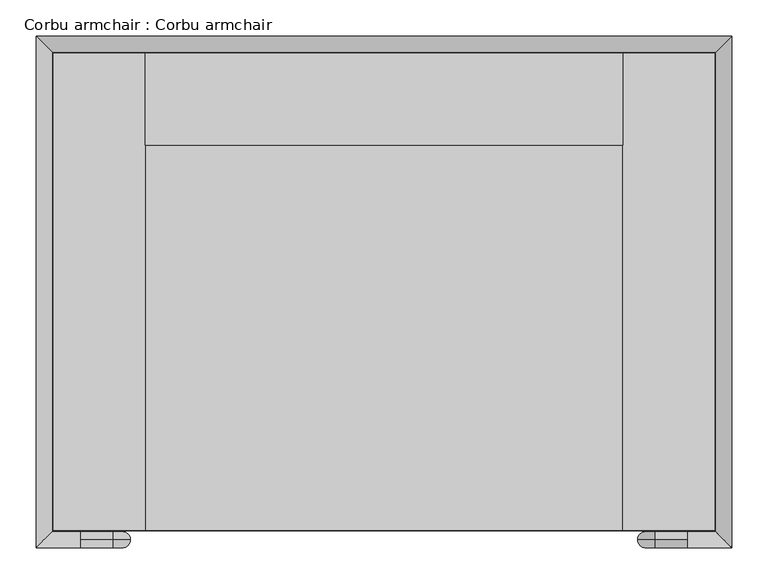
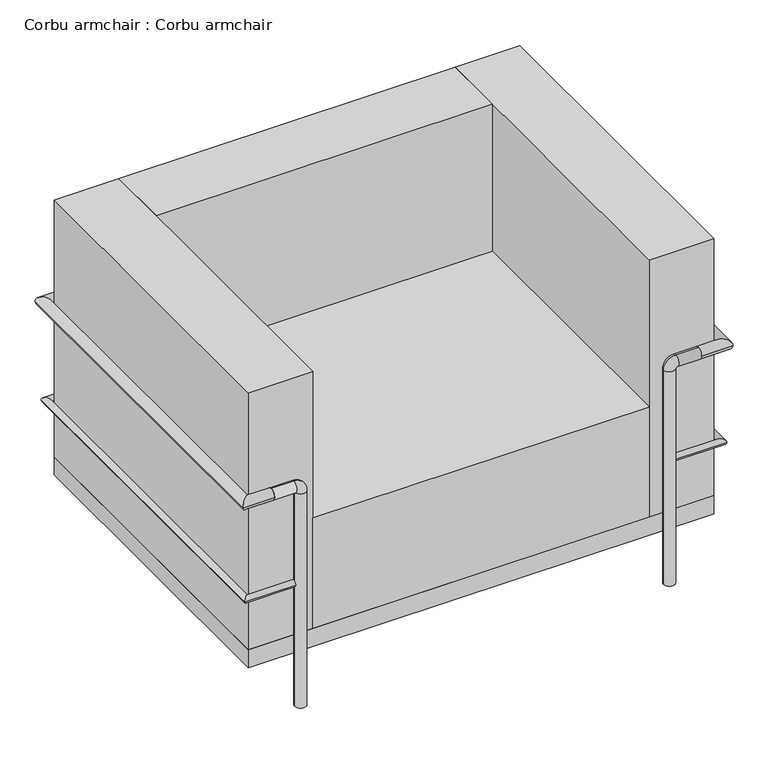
"""IFC4 building model written with IfcOpenShell, lengths in millimetres: furniture geometry, Corbu armchair : Corbu armchair."""

from ifc_helpers import new_model, si_unit, point, frame, frame_2d, origin, origin_with_axes, place, context, project, spatial, polyline, circle_curve, ellipse_curve, trimmed, segment, composite_curve, outline, extrude, source, transform, mapped, element, save
from ifc_brep_helpers import plane_surface, cylinder_surface, revolved_surface, advanced_brep


def corbu_armchair_corbu_armchair_71097553(model_context):
    return source(origin(), model_context, "Body", "SolidModel", [
        extrude(outline(composite_curve([segment(trimmed(circle_curve(frame_2d((211.4237705, 809.6770492)), 11.1125), [point((200.3112705, 809.6770492))], [point((222.5362705, 809.6770492))], False, "CARTESIAN"), True, "CONTINUOUS"), segment(trimmed(circle_curve(frame_2d((211.4237705, 809.6770492)), 11.1125), [point((222.5362705, 809.6770492))], [point((200.3112705, 809.6770492))], False, "CARTESIAN"), True, "CONTINUOUS")], self_intersect=False)), origin_with_axes(), (0.0, 0.0, 1.0), 457.2),
        extrude(outline(composite_curve([segment(trimmed(circle_curve(frame_2d((935.3237705, 809.6770492)), 11.1125), [point((946.4362705, 809.6770492))], [point((924.2112705, 809.6770492))], False, "CARTESIAN"), True, "CONTINUOUS"), segment(trimmed(circle_curve(frame_2d((935.3237705, 809.6770492)), 11.1125), [point((924.2112705, 809.6770492))], [point((946.4362705, 809.6770492))], False, "CARTESIAN"), True, "CONTINUOUS")], self_intersect=False)), origin_with_axes(), (0.0, 0.0, 1.0), 457.2),
        advanced_brep(
        [(946.4362705, 123.8770492, 0.0), (924.2112705, 123.8770492, 0.0), (946.4362705, 123.8770492, 444.5), (924.2112705, 123.8770492, 444.5), (948.0237705, 123.8770492, 468.3125), (948.0237705, 123.8770492, 446.0875), (992.4737705, 123.8770492, 446.0875), (992.4737705, 123.8770492, 468.3125)],
        [
            (0, 1, circle_curve(frame((935.3237705, 123.8770492, 0.0), z_axis=(0.0, 0.0, -1.0), x_axis=(-1.0, 0.0, 0.0)), 11.1125)),
            (1, 0, circle_curve(frame((935.3237705, 123.8770492, 0.0), z_axis=(0.0, 0.0, -1.0), x_axis=(-1.0, 0.0, 0.0)), 11.1125)),
            (0, 2),
            (2, 3, circle_curve(frame((935.3237705, 123.8770492, 444.5), z_axis=(0.0, 0.0, -1.0), x_axis=(-1.0, 0.0, 0.0)), 11.1125)),
            (3, 1),
            (3, 2, circle_curve(frame((935.3237705, 123.8770492, 444.5), z_axis=(0.0, 0.0, -1.0), x_axis=(-1.0, 0.0, 0.0)), 11.1125)),
            (4, 3, circle_curve(frame((948.0237705, 123.8770492, 444.5), z_axis=(0.0, -1.0, 0.0), x_axis=(-1.0, 0.0, 0.0)), 23.8125)),
            (2, 5, circle_curve(frame((948.0237705, 123.8770492, 444.5), z_axis=(0.0, 1.0, 0.0), x_axis=(-1.0, 0.0, 0.0)), 1.5875)),
            (5, 4, circle_curve(frame((948.0237705, 123.8770492, 457.2), z_axis=(-1.0, 0.0, 0.0), x_axis=(0.0, 0.0, 1.0)), 11.1125)),
            (4, 5, circle_curve(frame((948.0237705, 123.8770492, 457.2), z_axis=(-1.0, 0.0, 0.0), x_axis=(0.0, 0.0, 1.0)), 11.1125)),
            (6, 7, circle_curve(frame((992.4737705, 123.8770492, 457.2), z_axis=(1.0, 0.0, 0.0), x_axis=(0.0, 0.0, 1.0)), 11.1125)),
            (7, 6, circle_curve(frame((992.4737705, 123.8770492, 457.2), z_axis=(1.0, 0.0, 0.0), x_axis=(0.0, 0.0, 1.0)), 11.1125)),
            (5, 6),
            (7, 4),
        ],
        [
            plane_surface(frame((935.3237705, 112.7645492, 0.0), z_axis=(0.0, 0.0, -1.0), x_axis=(1.0, 0.0, 0.0))),
            cylinder_surface(frame((935.3237705, 123.8770492, 0.0), z_axis=(0.0, 0.0, -1.0), x_axis=(-1.0, 0.0, 0.0)), 11.1125),
            revolved_surface(trimmed(ellipse_curve(frame((935.3237705, 123.8770492, 444.5), z_axis=(0.0, 0.0, -1.0), x_axis=(-1.0, 0.0, 0.0)), 11.1125, 11.1125), [point((946.4362705, 123.8770492, 444.5))], [point((924.2112705, 123.8770492, 444.5))], True, "CARTESIAN"), (948.0237705, 123.8770492, 444.5), (0.0, 1.0, 0.0)),
            revolved_surface(trimmed(ellipse_curve(frame((935.3237705, 123.8770492, 444.5), z_axis=(0.0, 0.0, -1.0), x_axis=(-1.0, 0.0, 0.0)), 11.1125, 11.1125), [point((924.2112705, 123.8770492, 444.5))], [point((946.4362705, 123.8770492, 444.5))], True, "CARTESIAN"), (948.0237705, 123.8770492, 444.5), (0.0, 1.0, 0.0)),
            plane_surface(frame((992.4737705, 123.8770492, 446.0875), z_axis=(1.0, 0.0, 0.0), x_axis=(0.0, 1.0, 0.0))),
            cylinder_surface(frame((948.0237705, 123.8770492, 457.2), z_axis=(-1.0, 0.0, 0.0), x_axis=(0.0, 0.0, 1.0)), 11.1125),
        ],
        [
            (0, [[1, 2]]),
            (1, [[-1, 3, 4, 5]]),
            (1, [[-2, -5, 6, -3]]),
            (2, [[7, -4, 8, 9]]),
            (3, [[-8, -6, -7, 10]]),
            (4, [[11, 12]]),
            (5, [[-9, 13, -12, 14]]),
            (5, [[-10, -14, -11, -13]]),
        ],
    ),
        advanced_brep(
        [(222.5362705, 123.8770492, 0.0), (200.3112705, 123.8770492, 0.0), (222.5362705, 123.8770492, 444.5), (200.3112705, 123.8770492, 444.5), (198.7237705, 123.8770492, 446.0875), (198.7237705, 123.8770492, 468.3125), (154.2737705, 123.8770492, 468.3125), (154.2737705, 123.8770492, 446.0875)],
        [
            (0, 1, circle_curve(frame((211.4237705, 123.8770492, 0.0), z_axis=(0.0, 0.0, -1.0), x_axis=(-1.0, 0.0, 0.0)), 11.1125)),
            (1, 0, circle_curve(frame((211.4237705, 123.8770492, 0.0), z_axis=(0.0, 0.0, -1.0), x_axis=(-1.0, 0.0, 0.0)), 11.1125)),
            (0, 2),
            (2, 3, circle_curve(frame((211.4237705, 123.8770492, 444.5), z_axis=(0.0, 0.0, -1.0), x_axis=(-1.0, 0.0, 0.0)), 11.1125)),
            (3, 1),
            (3, 2, circle_curve(frame((211.4237705, 123.8770492, 444.5), z_axis=(0.0, 0.0, -1.0), x_axis=(-1.0, 0.0, 0.0)), 11.1125)),
            (4, 3, circle_curve(frame((198.7237705, 123.8770492, 444.5), z_axis=(0.0, 1.0, 0.0), x_axis=(1.0, 0.0, 0.0)), 1.5875)),
            (2, 5, circle_curve(frame((198.7237705, 123.8770492, 444.5), z_axis=(0.0, -1.0, 0.0), x_axis=(1.0, 0.0, 0.0)), 23.8125)),
            (5, 4, circle_curve(frame((198.7237705, 123.8770492, 457.2), z_axis=(1.0, 0.0, 0.0), x_axis=(0.0, 0.0, -1.0)), 11.1125)),
            (4, 5, circle_curve(frame((198.7237705, 123.8770492, 457.2), z_axis=(1.0, 0.0, 0.0), x_axis=(0.0, 0.0, -1.0)), 11.1125)),
            (6, 7, circle_curve(frame((154.2737705, 123.8770492, 457.2), z_axis=(-1.0, 0.0, 0.0), x_axis=(0.0, 0.0, -1.0)), 11.1125)),
            (7, 6, circle_curve(frame((154.2737705, 123.8770492, 457.2), z_axis=(-1.0, 0.0, 0.0), x_axis=(0.0, 0.0, -1.0)), 11.1125)),
            (5, 6),
            (7, 4),
        ],
        [
            plane_surface(frame((211.4237705, 112.7645492, 0.0), z_axis=(0.0, 0.0, -1.0), x_axis=(1.0, 0.0, 0.0))),
            cylinder_surface(frame((211.4237705, 123.8770492, 0.0), z_axis=(0.0, 0.0, -1.0), x_axis=(-1.0, 0.0, 0.0)), 11.1125),
            revolved_surface(trimmed(ellipse_curve(frame((211.4237705, 123.8770492, 444.5), z_axis=(0.0, 0.0, -1.0), x_axis=(-1.0, 0.0, 0.0)), 11.1125, 11.1125), [point((222.5362705, 123.8770492, 444.5))], [point((200.3112705, 123.8770492, 444.5))], True, "CARTESIAN"), (198.7237705, 123.8770492, 444.5), (0.0, -1.0, 0.0)),
            revolved_surface(trimmed(ellipse_curve(frame((211.4237705, 123.8770492, 444.5), z_axis=(0.0, 0.0, -1.0), x_axis=(-1.0, 0.0, 0.0)), 11.1125, 11.1125), [point((200.3112705, 123.8770492, 444.5))], [point((222.5362705, 123.8770492, 444.5))], True, "CARTESIAN"), (198.7237705, 123.8770492, 444.5), (0.0, -1.0, 0.0)),
            plane_surface(frame((154.2737705, 123.8770492, 446.0875), z_axis=(-1.0, 0.0, 0.0), x_axis=(0.0, -1.0, 0.0))),
            cylinder_surface(frame((198.7237705, 123.8770492, 457.2), z_axis=(1.0, 0.0, 0.0), x_axis=(0.0, 0.0, -1.0)), 11.1125),
        ],
        [
            (0, [[1, 2]]),
            (1, [[-1, 3, 4, 5]]),
            (1, [[-2, -5, 6, -3]]),
            (2, [[7, -4, 8, 9]]),
            (3, [[-8, -6, -7, 10]]),
            (4, [[11, 12]]),
            (5, [[-9, 13, -12, 14]]),
            (5, [[-10, -14, -11, -13]]),
        ],
    ),
        advanced_brep(
        [(201.8987705, 133.4020492, 254.0), (201.8987705, 120.7020492, 254.0), (112.9987705, 133.4020492, 254.0), (100.2987705, 120.7020492, 254.0), (112.9987705, 800.1520492, 254.0), (100.2987705, 812.8520492, 254.0), (1033.7487705, 800.1520492, 254.0), (1046.4487705, 812.8520492, 254.0), (1033.7487705, 133.4020492, 254.0), (1046.4487705, 120.7020492, 254.0), (944.8487705, 133.4020492, 254.0), (944.8487705, 120.7020492, 254.0)],
        [
            (0, 1, circle_curve(frame((201.8987705, 127.0520492, 254.0), z_axis=(1.0, 0.0, 0.0), x_axis=(0.0, -1.0, 0.0)), 6.35)),
            (1, 0, circle_curve(frame((201.8987705, 127.0520492, 254.0), z_axis=(1.0, 0.0, 0.0), x_axis=(0.0, -1.0, 0.0)), 6.35)),
            (0, 2),
            (2, 3, ellipse_curve(frame((106.6487705, 127.0520492, 254.0), z_axis=(0.7071067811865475, -0.7071067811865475, 0.0), x_axis=(0.7071067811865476, 0.7071067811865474, 0.0)), 8.9802561, 6.35)),
            (3, 1),
            (3, 2, ellipse_curve(frame((106.6487705, 127.0520492, 254.0), z_axis=(0.7071067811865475, -0.7071067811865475, 0.0), x_axis=(0.7071067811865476, 0.7071067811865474, 0.0)), 8.9802561, 6.35)),
            (2, 4),
            (4, 5, ellipse_curve(frame((106.6487705, 806.5020492, 254.0), z_axis=(-0.7071067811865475, -0.7071067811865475, 0.0), x_axis=(0.7071067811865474, -0.7071067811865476, 0.0)), 8.9802561, 6.35)),
            (5, 3),
            (5, 4, ellipse_curve(frame((106.6487705, 806.5020492, 254.0), z_axis=(-0.7071067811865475, -0.7071067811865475, 0.0), x_axis=(0.7071067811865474, -0.7071067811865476, 0.0)), 8.9802561, 6.35)),
            (4, 6),
            (6, 7, ellipse_curve(frame((1040.0987705, 806.5020492, 254.0), z_axis=(-0.7071067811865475, 0.7071067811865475, 0.0), x_axis=(-0.7071067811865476, -0.7071067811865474, 0.0)), 8.9802561, 6.35)),
            (7, 5),
            (7, 6, ellipse_curve(frame((1040.0987705, 806.5020492, 254.0), z_axis=(-0.7071067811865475, 0.7071067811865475, 0.0), x_axis=(-0.7071067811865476, -0.7071067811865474, 0.0)), 8.9802561, 6.35)),
            (6, 8),
            (8, 9, ellipse_curve(frame((1040.0987705, 127.0520492, 254.0), z_axis=(0.7071067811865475, 0.7071067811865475, 0.0), x_axis=(-0.7071067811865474, 0.7071067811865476, 0.0)), 8.9802561, 6.35)),
            (9, 7),
            (9, 8, ellipse_curve(frame((1040.0987705, 127.0520492, 254.0), z_axis=(0.7071067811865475, 0.7071067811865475, 0.0), x_axis=(-0.7071067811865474, 0.7071067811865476, 0.0)), 8.9802561, 6.35)),
            (10, 11, circle_curve(frame((944.8487705, 127.0520492, 254.0), z_axis=(-1.0, 0.0, 0.0), x_axis=(0.0, -1.0, 0.0)), 6.35)),
            (11, 10, circle_curve(frame((944.8487705, 127.0520492, 254.0), z_axis=(-1.0, 0.0, 0.0), x_axis=(0.0, -1.0, 0.0)), 6.35)),
            (8, 10),
            (11, 9),
        ],
        [
            plane_surface(frame((201.8987705, 127.0520492, -259.5186838), z_axis=(1.0, 0.0, 0.0), x_axis=(0.0, -1.0, 0.0))),
            cylinder_surface(frame((201.8987705, 127.0520492, 254.0), z_axis=(1.0, 0.0, 0.0), x_axis=(0.0, -1.0, 0.0)), 6.35),
            cylinder_surface(frame((106.6487705, 127.0520492, 254.0), z_axis=(0.0, -1.0, 0.0), x_axis=(-1.0, 0.0, 0.0)), 6.35),
            cylinder_surface(frame((106.6487705, 806.5020492, 254.0), z_axis=(-1.0, 0.0, 0.0), x_axis=(0.0, 1.0, 0.0)), 6.35),
            cylinder_surface(frame((1040.0987705, 806.5020492, 254.0), z_axis=(0.0, 1.0, 0.0), x_axis=(1.0, 0.0, 0.0)), 6.35),
            plane_surface(frame((944.8487705, 127.0520492, -259.5186838), z_axis=(-1.0, 0.0, 0.0), x_axis=(0.0, -1.0, 0.0))),
            cylinder_surface(frame((1040.0987705, 127.0520492, 254.0), z_axis=(1.0, 0.0, 0.0), x_axis=(0.0, -1.0, 0.0)), 6.35),
        ],
        [
            (0, [[1, 2]]),
            (1, [[-1, 3, 4, 5]]),
            (1, [[-2, -5, 6, -3]]),
            (2, [[-4, 7, 8, 9]]),
            (2, [[-6, -9, 10, -7]]),
            (3, [[-8, 11, 12, 13]]),
            (3, [[-10, -13, 14, -11]]),
            (4, [[-12, 15, 16, 17]]),
            (4, [[-14, -17, 18, -15]]),
            (5, [[19, 20]]),
            (6, [[-16, 21, -20, 22]]),
            (6, [[-18, -22, -19, -21]]),
        ],
    ),
        advanced_brep(
        [(154.2737705, 134.9895492, 457.2), (154.2737705, 112.7645492, 457.2), (114.5862705, 134.9895492, 457.2), (92.3612705, 112.7645492, 457.2), (114.5862705, 798.5645492, 457.2), (92.3612705, 820.7895492, 457.2), (1032.1612705, 798.5645492, 457.2), (1054.3862705, 820.7895492, 457.2), (1032.1612705, 134.9895492, 457.2), (1054.3862705, 112.7645492, 457.2), (992.4737705, 134.9895492, 457.2), (992.4737705, 112.7645492, 457.2)],
        [
            (0, 1, circle_curve(frame((154.2737705, 123.8770492, 457.2), z_axis=(1.0, 0.0, 0.0), x_axis=(0.0, -1.0, 0.0)), 11.1125)),
            (1, 0, circle_curve(frame((154.2737705, 123.8770492, 457.2), z_axis=(1.0, 0.0, 0.0), x_axis=(0.0, -1.0, 0.0)), 11.1125)),
            (0, 2),
            (2, 3, ellipse_curve(frame((103.4737705, 123.8770492, 457.2), z_axis=(0.7071067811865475, -0.7071067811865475, 0.0), x_axis=(0.7071067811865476, 0.7071067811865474, 0.0)), 15.7154482, 11.1125)),
            (3, 1),
            (3, 2, ellipse_curve(frame((103.4737705, 123.8770492, 457.2), z_axis=(0.7071067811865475, -0.7071067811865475, 0.0), x_axis=(0.7071067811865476, 0.7071067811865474, 0.0)), 15.7154482, 11.1125)),
            (2, 4),
            (4, 5, ellipse_curve(frame((103.4737705, 809.6770492, 457.2), z_axis=(-0.7071067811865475, -0.7071067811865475, 0.0), x_axis=(0.7071067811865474, -0.7071067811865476, 0.0)), 15.7154482, 11.1125)),
            (5, 3),
            (5, 4, ellipse_curve(frame((103.4737705, 809.6770492, 457.2), z_axis=(-0.7071067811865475, -0.7071067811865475, 0.0), x_axis=(0.7071067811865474, -0.7071067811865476, 0.0)), 15.7154482, 11.1125)),
            (4, 6),
            (6, 7, ellipse_curve(frame((1043.2737705, 809.6770492, 457.2), z_axis=(-0.7071067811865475, 0.7071067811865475, 0.0), x_axis=(-0.7071067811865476, -0.7071067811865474, 0.0)), 15.7154482, 11.1125)),
            (7, 5),
            (7, 6, ellipse_curve(frame((1043.2737705, 809.6770492, 457.2), z_axis=(-0.7071067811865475, 0.7071067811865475, 0.0), x_axis=(-0.7071067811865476, -0.7071067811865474, 0.0)), 15.7154482, 11.1125)),
            (6, 8),
            (8, 9, ellipse_curve(frame((1043.2737705, 123.8770492, 457.2), z_axis=(0.7071067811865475, 0.7071067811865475, 0.0), x_axis=(-0.7071067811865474, 0.7071067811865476, 0.0)), 15.7154482, 11.1125)),
            (9, 7),
            (9, 8, ellipse_curve(frame((1043.2737705, 123.8770492, 457.2), z_axis=(0.7071067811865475, 0.7071067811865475, 0.0), x_axis=(-0.7071067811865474, 0.7071067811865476, 0.0)), 15.7154482, 11.1125)),
            (10, 11, circle_curve(frame((992.4737705, 123.8770492, 457.2), z_axis=(-1.0, 0.0, 0.0), x_axis=(0.0, -1.0, 0.0)), 11.1125)),
            (11, 10, circle_curve(frame((992.4737705, 123.8770492, 457.2), z_axis=(-1.0, 0.0, 0.0), x_axis=(0.0, -1.0, 0.0)), 11.1125)),
            (8, 10),
            (11, 9),
        ],
        [
            plane_surface(frame((154.2737705, 123.8770492, -466.8567721), z_axis=(1.0, 0.0, 0.0), x_axis=(0.0, -1.0, 0.0))),
            cylinder_surface(frame((154.2737705, 123.8770492, 457.2), z_axis=(1.0, 0.0, 0.0), x_axis=(0.0, -1.0, 0.0)), 11.1125),
            cylinder_surface(frame((103.4737705, 123.8770492, 457.2), z_axis=(0.0, -1.0, 0.0), x_axis=(-1.0, 0.0, 0.0)), 11.1125),
            cylinder_surface(frame((103.4737705, 809.6770492, 457.2), z_axis=(-1.0, 0.0, 0.0), x_axis=(0.0, 1.0, 0.0)), 11.1125),
            cylinder_surface(frame((1043.2737705, 809.6770492, 457.2), z_axis=(0.0, 1.0, 0.0), x_axis=(1.0, 0.0, 0.0)), 11.1125),
            plane_surface(frame((992.4737705, 123.8770492, -466.8567721), z_axis=(-1.0, 0.0, 0.0), x_axis=(0.0, -1.0, 0.0))),
            cylinder_surface(frame((1043.2737705, 123.8770492, 457.2), z_axis=(1.0, 0.0, 0.0), x_axis=(0.0, -1.0, 0.0)), 11.1125),
        ],
        [
            (0, [[1, 2]]),
            (1, [[-1, 3, 4, 5]]),
            (1, [[-2, -5, 6, -3]]),
            (2, [[-4, 7, 8, 9]]),
            (2, [[-6, -9, 10, -7]]),
            (3, [[-8, 11, 12, 13]]),
            (3, [[-10, -13, 14, -11]]),
            (4, [[-12, 15, 16, 17]]),
            (4, [[-14, -17, 18, -15]]),
            (5, [[19, 20]]),
            (6, [[-16, 21, -20, 22]]),
            (6, [[-18, -22, -19, -21]]),
        ],
    ),
        extrude(outline(polyline([(903.5737705, 796.9770492), (903.5737705, 669.9770492), (243.1737705, 669.9770492), (243.1737705, 796.9770492), (903.5737705, 796.9770492)])), frame((0.0, 0.0, 139.7), z_axis=(0.0, 0.0, 1.0), x_axis=(1.0, 0.0, 0.0)), (0.0, 0.0, 1.0), 533.4),
        extrude(outline(polyline([(903.5737705, 669.9770492), (903.5737705, 136.5770492), (243.1737705, 136.5770492), (243.1737705, 669.9770492), (903.5737705, 669.9770492)])), frame((0.0, 0.0, 139.7), z_axis=(0.0, 0.0, 1.0), x_axis=(1.0, 0.0, 0.0)), (0.0, 0.0, 1.0), 228.6),
        extrude(outline(polyline([(243.1737705, 796.9770492), (243.1737705, 136.5770492), (116.1737705, 136.5770492), (116.1737705, 796.9770492), (243.1737705, 796.9770492)])), frame((0.0, 0.0, 139.7), z_axis=(0.0, 0.0, 1.0), x_axis=(1.0, 0.0, 0.0)), (0.0, 0.0, 1.0), 533.4),
        extrude(outline(polyline([(1030.5737705, 796.9770492), (1030.5737705, 136.5770492), (903.5737705, 136.5770492), (903.5737705, 796.9770492), (1030.5737705, 796.9770492)])), frame((0.0, 0.0, 139.7), z_axis=(0.0, 0.0, 1.0), x_axis=(1.0, 0.0, 0.0)), (0.0, 0.0, 1.0), 533.4),
        extrude(outline(polyline([(1030.5737705, 796.9770492), (1030.5737705, 136.5770492), (116.1737705, 136.5770492), (116.1737705, 796.9770492), (1030.5737705, 796.9770492)])), frame((0.0, 0.0, 101.6), z_axis=(0.0, 0.0, 1.0), x_axis=(1.0, 0.0, 0.0)), (0.0, 0.0, 1.0), 38.1),
    ])


if __name__ == "__main__":
    model = new_model("IFC4")
    model_context = context("Model", 3, world=origin())
    ifc_project = project(units=[si_unit("LENGTHUNIT", "METRE", prefix="MILLI")], contexts=[model_context])
    site = spatial("IfcSite", under=ifc_project)
    building = spatial("IfcBuilding", under=site)
    placement = place(None, origin())
    corbu_armchair_corbu_armchair_shape = corbu_armchair_corbu_armchair_71097553(model_context)
    element("IfcFurniture", 1, ObjectType="Corbu armchair : Corbu armchair", at=placement, inside=building, context=model_context, shape_type="MappedRepresentation", body=[
        mapped(corbu_armchair_corbu_armchair_shape, transform((0.0, 0.0, 0.0), x_axis=(1.0, 0.0, 0.0), y_axis=(0.0, 1.0, 0.0), z_axis=(0.0, 0.0, 1.0))),
    ])
    save(model, "model.ifc")
